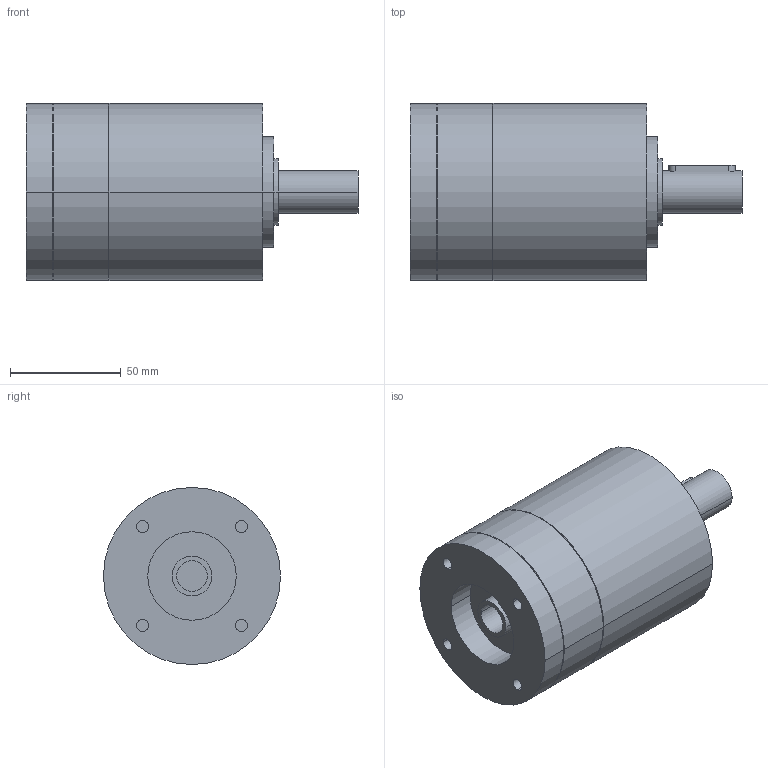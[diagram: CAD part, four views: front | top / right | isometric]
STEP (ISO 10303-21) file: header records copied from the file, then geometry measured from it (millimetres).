
FILE_DESCRIPTION(('CoCreate Modeling STEP Export'),'2;1');
FILE_NAME('GPR100_ig-3-4-5-6_19_B14_14_P17.stp','2014-08-26T10:07:12',(''),(''),'CoCreate Modeling STEP processor for AP214 (Solid Model)','CoCreate Modeling 16.00C 25-Feb-2009 (C) Parametric Technology GmbH','');
FILE_SCHEMA(('AUTOMOTIVE_DESIGN { 1 0 10303 214 1 1 1 1 }'));
Length unit declared in the file: millimetre
Products named in the file (2): GPR100_ig-3-4-5-6_19_B14_14_P17
Assembly tree (1 placements, depth 2):
  GPR100_ig-3-4-5-6_19_B14_14_P17
    GPR100_ig-3-4-5-6_19_B14_14_P17
Bounding box: 150 x 80 x 80 mm (x, y, z)
Volume: 537627.3 mm3; surface area: 46508.6 mm2
Topology: 1 solids, 1 shells, 77 faces, 195 edges, 139 vertices
Faces by surface type: cylinder 46, plane 25, cone 6
Entity records: 1961 total; most frequent: ORIENTED_EDGE 386, CARTESIAN_POINT 359, DIRECTION 254, EDGE_CURVE 193, VERTEX_POINT 139, AXIS2_PLACEMENT_3D 98, EDGE_LOOP 98, FACE_OUTER_BOUND 77
